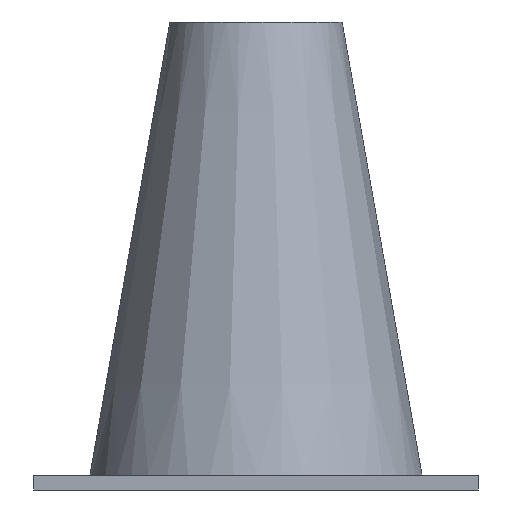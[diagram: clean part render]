
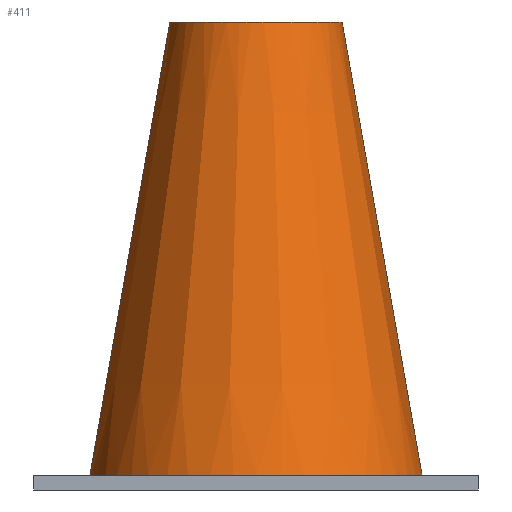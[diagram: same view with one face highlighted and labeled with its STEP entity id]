
A CAD part, front view. The second image highlights one B-rep face of the part: STEP entity #411.
In plain terms, the highlighted conical face has half-angle 10 degrees and reference radius 18.046 mm.
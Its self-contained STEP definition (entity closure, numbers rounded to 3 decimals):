
#284=CARTESIAN_POINT('Vertex',(28.454,56.5,98.)) ;
#286=CARTESIAN_POINT('Vertex',(64.546,56.5,98.)) ;
#290=CARTESIAN_POINT('Control Point',(28.454,56.5,98.)) ;
#291=CARTESIAN_POINT('Control Point',(28.454,54.829,98.)) ;
#292=CARTESIAN_POINT('Control Point',(28.647,53.158,98.)) ;
#293=CARTESIAN_POINT('Control Point',(29.034,51.517,98.)) ;
#294=CARTESIAN_POINT('Control Point',(30.181,48.353,98.)) ;
#295=CARTESIAN_POINT('Control Point',(32.02,45.535,98.)) ;
#296=CARTESIAN_POINT('Control Point',(33.1,44.239,98.)) ;
#297=CARTESIAN_POINT('Control Point',(35.54,41.92,98.)) ;
#298=CARTESIAN_POINT('Control Point',(38.445,40.221,98.)) ;
#299=CARTESIAN_POINT('Control Point',(39.99,39.544,98.)) ;
#300=CARTESIAN_POINT('Control Point',(43.209,38.56,98.)) ;
#301=CARTESIAN_POINT('Control Point',(46.567,38.337,98.)) ;
#302=CARTESIAN_POINT('Control Point',(48.252,38.422,98.)) ;
#303=CARTESIAN_POINT('Control Point',(51.572,38.979,98.)) ;
#304=CARTESIAN_POINT('Control Point',(54.676,40.281,98.)) ;
#305=CARTESIAN_POINT('Control Point',(56.145,41.109,98.)) ;
#306=CARTESIAN_POINT('Control Point',(58.866,43.092,98.)) ;
#307=CARTESIAN_POINT('Control Point',(61.061,45.643,98.)) ;
#308=CARTESIAN_POINT('Control Point',(62.006,47.041,98.)) ;
#309=CARTESIAN_POINT('Control Point',(63.386,49.705,98.)) ;
#310=CARTESIAN_POINT('Control Point',(64.19,52.588,98.)) ;
#311=CARTESIAN_POINT('Control Point',(64.428,53.882,98.)) ;
#312=CARTESIAN_POINT('Control Point',(64.546,55.191,98.)) ;
#313=CARTESIAN_POINT('Control Point',(64.546,56.5,98.)) ;
#351=CARTESIAN_POINT('Vertex',(81.297,56.5,3.)) ;
#353=CARTESIAN_POINT('Vertex',(11.703,56.5,3.)) ;
#357=CARTESIAN_POINT('Control Point',(81.297,56.5,3.)) ;
#358=CARTESIAN_POINT('Control Point',(81.297,50.705,3.)) ;
#359=CARTESIAN_POINT('Control Point',(80.091,44.909,3.)) ;
#360=CARTESIAN_POINT('Control Point',(77.676,39.449,3.)) ;
#361=CARTESIAN_POINT('Control Point',(70.724,29.864,3.)) ;
#362=CARTESIAN_POINT('Control Point',(60.525,23.85,3.)) ;
#363=CARTESIAN_POINT('Control Point',(54.86,21.963,3.)) ;
#364=CARTESIAN_POINT('Control Point',(43.091,20.658,3.)) ;
#365=CARTESIAN_POINT('Control Point',(31.779,24.158,3.)) ;
#366=CARTESIAN_POINT('Control Point',(26.571,27.08,3.)) ;
#367=CARTESIAN_POINT('Control Point',(18.7,34.017,3.)) ;
#368=CARTESIAN_POINT('Control Point',(13.862,43.227,3.)) ;
#369=CARTESIAN_POINT('Control Point',(12.422,47.549,3.)) ;
#370=CARTESIAN_POINT('Control Point',(11.703,52.024,3.)) ;
#371=CARTESIAN_POINT('Control Point',(11.703,56.5,3.)) ;
#383=CARTESIAN_POINT('Line Origine',(20.078,56.5,50.5)) ;
#388=CARTESIAN_POINT('Line Origine',(72.922,56.5,50.5)) ;
#400=CARTESIAN_POINT('Axis2P3D Location',(46.5,56.5,98.)) ;
#384=DIRECTION('Vector Direction',(-0.174,0.,-0.985)) ;
#389=DIRECTION('Vector Direction',(0.174,0.,-0.985)) ;
#401=DIRECTION('Axis2P3D Direction',(-0.,-0.,-1.)) ;
#402=DIRECTION('Axis2P3D XDirection',(0.,1.,0.)) ;
#403=AXIS2_PLACEMENT_3D('Cone Axis2P3D',#400,#401,#402) ;
#406=ORIENTED_EDGE('',*,*,#314,.F.) ;
#407=ORIENTED_EDGE('',*,*,#387,.F.) ;
#408=ORIENTED_EDGE('',*,*,#372,.F.) ;
#409=ORIENTED_EDGE('',*,*,#392,.T.) ;
#385=VECTOR('Line Direction',#384,1.) ;
#390=VECTOR('Line Direction',#389,1.) ;
#411=ADVANCED_FACE('PartBody',(#410),#404,.T.) ;
#289=B_SPLINE_CURVE_WITH_KNOTS('',5,(#290,#291,#292,#293,#294,#295,#296,#297,#298,#299,#300,#301,#302,#303,#304,#305,#306,#307,#308,#309,#310,#311,#312,#313),.UNSPECIFIED.,.F.,.U.,(6,3,3,3,3,3,3,6),(0.,10.864,21.733,32.603,43.472,54.341,65.211,73.721),.UNSPECIFIED.) ;
#356=B_SPLINE_CURVE_WITH_KNOTS('',5,(#357,#358,#359,#360,#361,#362,#363,#364,#365,#366,#367,#368,#369,#370,#371),.UNSPECIFIED.,.F.,.U.,(6,3,3,3,6),(0.,31.554,63.113,94.672,119.04),.UNSPECIFIED.) ;
#404=CONICAL_SURFACE('Cone',#403,18.046,0.175) ;
#314=EDGE_CURVE('',#285,#287,#289,.T.) ;
#372=EDGE_CURVE('',#352,#354,#356,.T.) ;
#387=EDGE_CURVE('',#354,#285,#386,.F.) ;
#392=EDGE_CURVE('',#352,#287,#391,.F.) ;
#405=EDGE_LOOP('',(#406,#407,#408,#409)) ;
#410=FACE_OUTER_BOUND('',#405,.T.) ;
#386=LINE('Line',#383,#385) ;
#391=LINE('Line',#388,#390) ;
#285=VERTEX_POINT('',#284) ;
#287=VERTEX_POINT('',#286) ;
#352=VERTEX_POINT('',#351) ;
#354=VERTEX_POINT('',#353) ;
